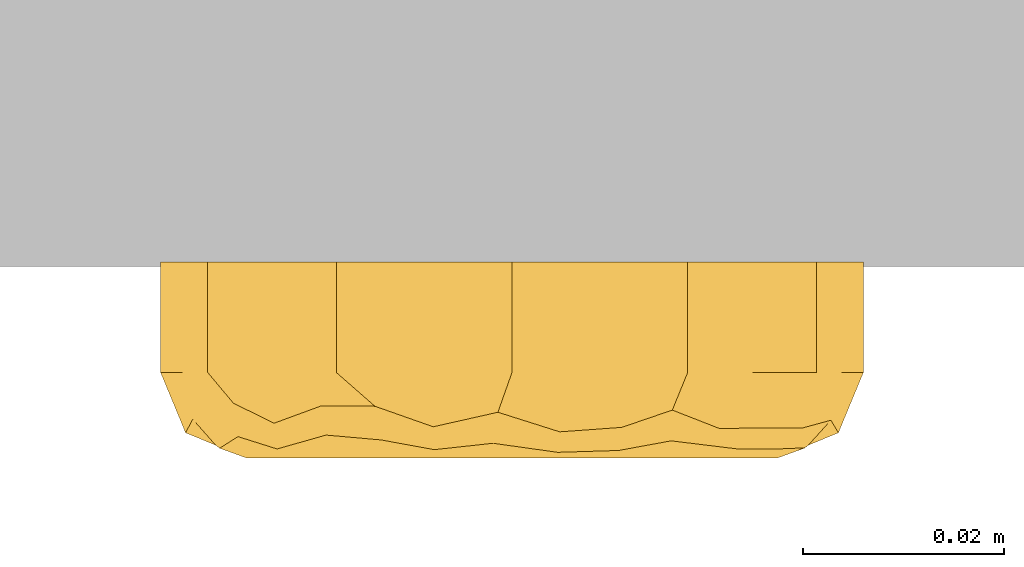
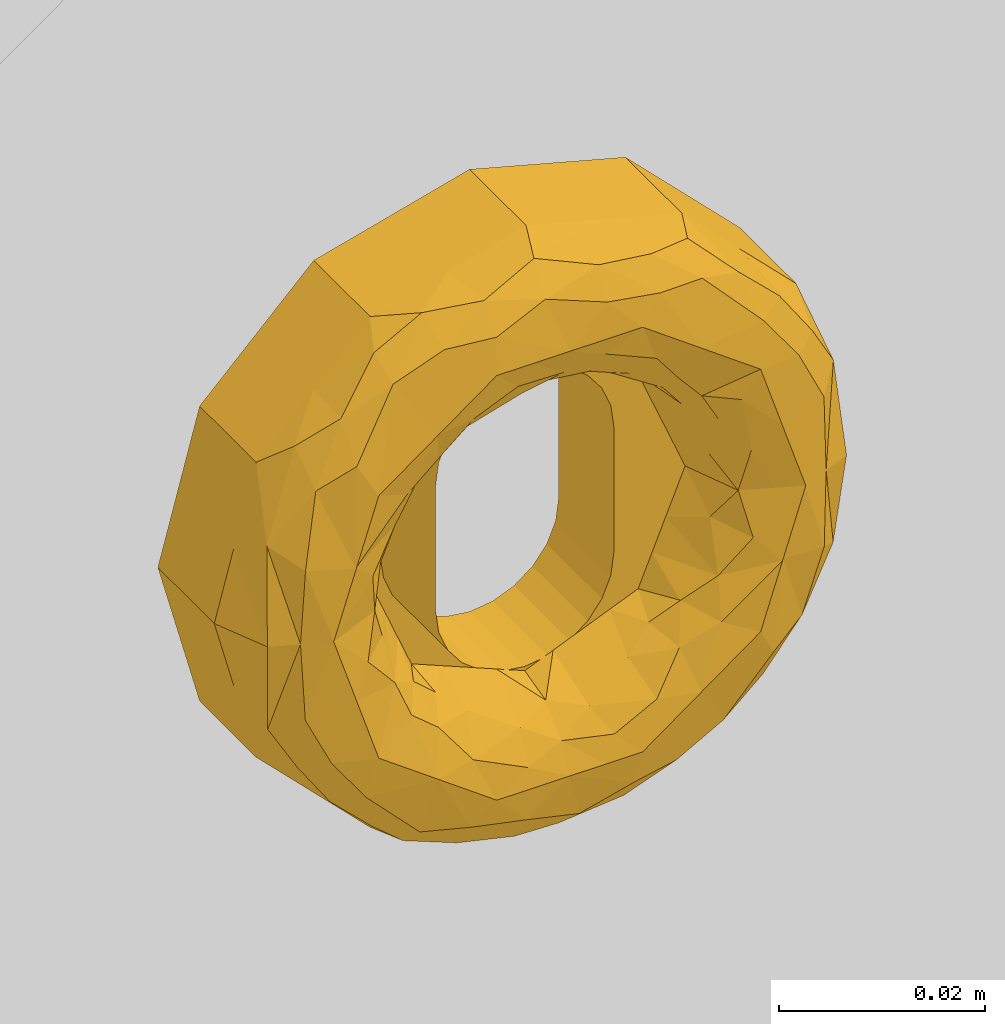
# One storey, part 2 of 2: 1 door.
"""IFC2X3 building model written with IfcOpenShell, lengths in feet."""

from ifc_helpers import new_model, entity, si_unit, converted_unit, derived_unit, direction, frame, origin, place, context, subcontext, project, spatial, face_set, surface_model, source, transform, mapped, type_object, type_shapes, element, save


model = new_model("IFC2X3")

# Units and contexts
model_context = context("Model", 3, precision=0.0001, world=origin(), true_north=direction((6.12303176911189e-17, 1.0)))
body_context = subcontext(model_context, "Body", "Model", "MODEL_VIEW")
ifc_project = project(units=[converted_unit("LENGTHUNIT", "FOOT", entity("IfcRatioMeasure", 0.3048), si_unit("LENGTHUNIT", "METRE"), dimensions=[1, 0, 0, 0, 0, 0, 0]), converted_unit("AREAUNIT", "SQUARE FOOT", entity("IfcRatioMeasure", 0.09290304), si_unit("AREAUNIT", "SQUARE_METRE"), dimensions=[2, 0, 0, 0, 0, 0, 0]), converted_unit("VOLUMEUNIT", "CUBIC FOOT", entity("IfcRatioMeasure", 0.028316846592), si_unit("VOLUMEUNIT", "CUBIC_METRE"), dimensions=[3, 0, 0, 0, 0, 0, 0]), converted_unit("PLANEANGLEUNIT", "DEGREE", entity("IfcRatioMeasure", 0.0174532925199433), si_unit("PLANEANGLEUNIT", "RADIAN"), dimensions=[0, 0, 0, 0, 0, 0, 0]), si_unit("MASSUNIT", "GRAM", prefix="KILO"), derived_unit("MASSDENSITYUNIT", [(si_unit("MASSUNIT", "GRAM", prefix="KILO"), 1), (si_unit("LENGTHUNIT", "METRE"), -3)]), si_unit("TIMEUNIT", "SECOND"), si_unit("FREQUENCYUNIT", "HERTZ"), si_unit("THERMODYNAMICTEMPERATUREUNIT", "DEGREE_CELSIUS"), derived_unit("THERMALTRANSMITTANCEUNIT", [(si_unit("MASSUNIT", "GRAM", prefix="KILO"), 1), (si_unit("THERMODYNAMICTEMPERATUREUNIT", "KELVIN"), -1), (si_unit("TIMEUNIT", "SECOND"), -3)]), derived_unit("VOLUMETRICFLOWRATEUNIT", [(si_unit("LENGTHUNIT", "METRE"), 3), (si_unit("TIMEUNIT", "SECOND"), -1)]), si_unit("ELECTRICCURRENTUNIT", "AMPERE"), si_unit("ELECTRICVOLTAGEUNIT", "VOLT"), si_unit("POWERUNIT", "WATT"), si_unit("FORCEUNIT", "NEWTON"), si_unit("ILLUMINANCEUNIT", "LUX"), si_unit("LUMINOUSFLUXUNIT", "LUMEN"), si_unit("LUMINOUSINTENSITYUNIT", "CANDELA"), derived_unit("USERDEFINED", [(si_unit("MASSUNIT", "GRAM", prefix="KILO"), -1), (si_unit("LENGTHUNIT", "METRE"), -2), (si_unit("TIMEUNIT", "SECOND"), 3), (si_unit("LUMINOUSFLUXUNIT", "LUMEN"), 1)]), derived_unit("LINEARVELOCITYUNIT", [(si_unit("LENGTHUNIT", "METRE"), 1), (si_unit("TIMEUNIT", "SECOND"), -1)]), si_unit("PRESSUREUNIT", "PASCAL"), derived_unit("USERDEFINED", [(si_unit("LENGTHUNIT", "METRE"), -2), (si_unit("MASSUNIT", "GRAM", prefix="KILO"), 1), (si_unit("TIMEUNIT", "SECOND"), -2)])], contexts=[model_context])

# Site, building, storey
site_placement = place(None, origin())
site = spatial("IfcSite", under=ifc_project, at=site_placement, Name="Default", CompositionType="ELEMENT")
building_placement = place(site_placement, origin())
building = spatial("IfcBuilding", under=site, at=building_placement, CompositionType="ELEMENT")
storey_placement = place(building_placement, origin())
storey = spatial("IfcBuildingStorey", under=building, at=storey_placement, Name="Level 1", CompositionType="ELEMENT", Elevation=0.0)

# Door
door_style = type_object("IfcDoorStyle", Name="dline_Hardware_TomDixonCollection_Escutcheons_Oval_Half_SnapOn_10.25", ConstructionType="NOTDEFINED", OperationType="DOUBLE_SWING_RIGHT", ParameterTakesPrecedence=False, Sizeable=False)
shared_shape = source(origin(), body_context, "Body", "SurfaceModel", [
    surface_model("IfcFaceBasedSurfaceModel", [(-0.114829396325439, 0.0, -0.00161922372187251), (-0.0994451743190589, 0.0574146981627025, -0.00161922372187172), (-0.0574146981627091, 0.0994451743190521, -0.00161922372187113), (0.0, 0.114829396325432, -0.00161922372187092), (0.0574146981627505, 0.099445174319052, -0.00161922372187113), (0.0994451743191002, 0.0574146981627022, -0.00161922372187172), (0.11482939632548, 0.0, -0.00161922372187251), (0.0328083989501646, 0.0, -0.00161922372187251), (0.0328083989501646, 0.0246062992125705, -0.00161922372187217), (0.0316904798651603, 0.0330977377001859, -0.00161922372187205), (0.0284129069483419, 0.0410104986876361, -0.00161922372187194), (0.023199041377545, 0.047805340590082, -0.00161922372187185), (0.0164041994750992, 0.0530192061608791, -0.00161922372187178), (0.00849143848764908, 0.0562967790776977, -0.00161922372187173), (0.0, 0.0574146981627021, -0.00161922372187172), (-0.00849143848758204, 0.0562967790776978, -0.00161922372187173), (-0.0164041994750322, 0.0530192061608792, -0.00161922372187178), (-0.023199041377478, 0.0478053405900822, -0.00161922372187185), (-0.028412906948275, 0.0410104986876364, -0.00161922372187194), (-0.0316904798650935, 0.0330977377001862, -0.00161922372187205), (-0.0328083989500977, 0.0246062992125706, -0.00161922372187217), (-0.0328083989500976, 0.0, -0.00161922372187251), (0.0994451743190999, -0.0574146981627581, -0.0016192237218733), (0.0574146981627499, -0.0994451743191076, -0.00161922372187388), (0.0, -0.114829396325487, -0.0016192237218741), (-0.0574146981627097, -0.099445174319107, -0.00161922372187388), (-0.0994451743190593, -0.0574146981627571, -0.0016192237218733), (-0.0328083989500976, -0.0246062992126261, -0.00161922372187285), (-0.0316904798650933, -0.0330977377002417, -0.00161922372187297), (-0.0284129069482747, -0.0410104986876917, -0.00161922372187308), (-0.0231990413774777, -0.0478053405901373, -0.00161922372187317), (-0.016404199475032, -0.0530192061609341, -0.00161922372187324), (-0.00849143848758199, -0.0562967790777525, -0.00161922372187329), (0.0, -0.0574146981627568, -0.0016192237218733), (0.00849143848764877, -0.0562967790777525, -0.00161922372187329), (0.0164041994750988, -0.0530192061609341, -0.00161922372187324), (0.0231990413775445, -0.0478053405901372, -0.00161922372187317), (0.0284129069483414, -0.0410104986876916, -0.00161922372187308), (0.03169047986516, -0.0330977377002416, -0.00161922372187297), (0.0328083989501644, -0.0246062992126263, -0.00161922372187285), (0.103991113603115, 0.0404490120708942, 0.0344488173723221), (0.107137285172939, 0.0287073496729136, -0.0016192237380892), (0.109410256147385, 0.0202245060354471, 0.0344488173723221), (-0.107137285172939, 0.0287073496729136, 0.0344488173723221), (-0.0994451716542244, 0.0574146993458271, 0.0344488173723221), (-0.107137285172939, 0.0287073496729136, -0.0016192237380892), (0.0784299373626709, 0.0784299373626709, 0.0344488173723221), (0.0994451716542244, 0.0574146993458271, 0.0344488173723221), (0.0784299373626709, 0.0784299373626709, -0.0016192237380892), (0.114829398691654, 0.0, 0.0344488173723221), (0.0574146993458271, 0.0994451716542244, 0.0344488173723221), (0.0287073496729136, 0.107137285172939, -0.0016192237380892), (0.0, 0.114829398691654, 0.0344488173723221), (0.0287073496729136, 0.107137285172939, 0.0344488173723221), (-0.0287073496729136, 0.107137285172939, 0.0344488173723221), (-0.0287073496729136, 0.107137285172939, -0.0016192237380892), (-0.0784299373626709, 0.0784299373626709, -0.0016192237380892), (-0.0784299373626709, 0.0784299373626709, 0.0344488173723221), (-0.0574146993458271, 0.0994451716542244, 0.0344488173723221), (-0.114829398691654, 0.0, 0.0344488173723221), (-0.103991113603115, -0.0404490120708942, 0.0344488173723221), (-0.107137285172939, -0.0287073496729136, -0.0016192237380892), (-0.109410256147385, -0.0202245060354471, 0.0344488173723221), (0.107137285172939, -0.0287073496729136, 0.0344488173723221), (0.0994451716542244, -0.0574146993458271, 0.0344488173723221), (0.107137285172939, -0.0287073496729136, -0.0016192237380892), (-0.0784299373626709, -0.0784299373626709, 0.0344488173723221), (-0.0994451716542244, -0.0574146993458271, 0.0344488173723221), (-0.0784299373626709, -0.0784299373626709, -0.0016192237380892), (-0.0574146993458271, -0.0994451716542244, 0.0344488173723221), (-0.0287073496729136, -0.107137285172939, -0.0016192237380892), (0.0, -0.114829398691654, 0.0344488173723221), (-0.0287073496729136, -0.107137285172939, 0.0344488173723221), (0.0287073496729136, -0.107137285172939, 0.0344488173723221), (0.0287073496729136, -0.107137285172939, -0.0016192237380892), (0.0784299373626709, -0.0784299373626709, -0.0016192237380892), (0.0784299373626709, -0.0784299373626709, 0.0344488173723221), (0.0574146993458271, -0.0994451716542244, 0.0344488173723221), (0.104185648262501, 0.0354321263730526, 0.0500666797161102), (0.10769384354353, 0.0266302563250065, 0.0344488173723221), (-0.00460470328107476, 0.111512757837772, 0.0474605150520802), (-0.0257417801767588, 0.105345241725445, 0.0522065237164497), (-0.00619756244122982, 0.102307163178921, 0.0575964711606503), (0.0358880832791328, 0.102162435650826, 0.0524010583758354), (0.0155927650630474, 0.105819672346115, 0.0538624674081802), (0.095525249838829, 0.0295866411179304, 0.0590888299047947), (0.0948657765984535, 0.0518237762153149, 0.0526179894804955), (0.086100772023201, 0.0492820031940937, 0.059494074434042), (-0.0607702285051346, 0.086708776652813, 0.0549158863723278), (-0.0427446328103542, 0.0948088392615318, 0.0565113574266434), (-0.0447977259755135, 0.103246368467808, 0.0455000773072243), (0.106661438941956, 0.0, 0.0541680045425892), (0.0676873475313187, 0.0841498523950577, 0.0527382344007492), (0.0520024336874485, 0.0896197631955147, 0.056803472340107), (0.0733057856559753, 0.0671199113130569, 0.0594025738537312), (0.0703377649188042, 0.051103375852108, 0.0623359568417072), (0.0523817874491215, 0.0989614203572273, 0.0467500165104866), (0.0348720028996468, 0.0918425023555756, 0.0599449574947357), (-0.0623906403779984, 0.093721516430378, 0.0454000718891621), (0.0968018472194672, 0.0, 0.0582519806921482), (0.0486022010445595, 0.0668951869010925, 0.0623359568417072), (-0.104311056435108, 0.0357333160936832, 0.0497423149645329), (-0.0895434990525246, 0.0554412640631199, 0.0554260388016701), (-0.0910296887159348, 0.0668764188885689, 0.0444998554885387), (-0.0253979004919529, 0.0954931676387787, 0.0596833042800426), (-0.0486022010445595, 0.0668951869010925, 0.0623359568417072), (-0.0777445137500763, 0.0769081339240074, 0.0510394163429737), (-0.0767557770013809, 0.0629682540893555, 0.0594584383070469), (-0.0955414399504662, 0.0286489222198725, 0.0592238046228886), (-0.0968018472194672, 0.0, 0.0582519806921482), (-0.10769384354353, 0.0266302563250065, 0.0344488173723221), (-0.106661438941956, 0.0, 0.0541680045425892), (0.0149465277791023, 0.0955802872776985, 0.0605574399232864), (-0.0786400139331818, 0.025551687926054, 0.0623359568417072), (-0.0869422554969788, 0.0, 0.0623359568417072), (0.0869422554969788, 0.0, 0.0623359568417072), (0.0786400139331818, 0.025551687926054, 0.0623359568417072), (0.0827525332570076, 0.069546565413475, 0.0526207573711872), (0.0268666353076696, 0.0826869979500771, 0.0623359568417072), (0.0, 0.0826869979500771, 0.0623359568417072), (-0.0703377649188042, 0.051103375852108, 0.0623359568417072), (-0.0268666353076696, 0.0826869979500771, 0.0623359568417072), (-0.104185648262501, -0.0354321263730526, 0.0500666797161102), (-0.10769384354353, -0.0266302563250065, 0.0344488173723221), (0.0895434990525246, -0.0554412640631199, 0.0554260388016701), (0.0786400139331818, -0.025551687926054, 0.0623359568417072), (0.0767557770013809, -0.0629682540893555, 0.0594584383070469), (0.10769384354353, -0.0266302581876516, 0.0344488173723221), (0.104311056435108, -0.0357333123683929, 0.0497423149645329), (-0.095525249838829, -0.0295866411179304, 0.0590888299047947), (-0.0948657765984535, -0.0518237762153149, 0.0526179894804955), (-0.086100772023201, -0.0492820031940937, 0.059494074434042), (-0.0486022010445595, -0.0668951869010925, 0.0623359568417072), (-0.0703377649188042, -0.051103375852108, 0.0623359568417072), (-0.0733057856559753, -0.0671199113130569, 0.0594025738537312), (-0.0358880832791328, -0.102162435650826, 0.0524010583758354), (-0.0155927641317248, -0.105819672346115, 0.0538624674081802), (-0.0676873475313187, -0.0841498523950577, 0.0527382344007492), (-0.0520024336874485, -0.0896197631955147, 0.056803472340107), (-0.0348720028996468, -0.0918425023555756, 0.0599449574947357), (0.00460470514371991, -0.111512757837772, 0.0474605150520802), (0.0910296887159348, -0.0668764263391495, 0.0444998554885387), (0.0607702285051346, -0.0867087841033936, 0.0549158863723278), (0.0447977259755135, -0.103246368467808, 0.0455000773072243), (0.0623906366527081, -0.093721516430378, 0.0454000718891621), (0.0427446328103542, -0.0948088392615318, 0.0565113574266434), (0.025397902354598, -0.0954931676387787, 0.0596833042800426), (0.0257417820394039, -0.105345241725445, 0.0522065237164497), (0.0777445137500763, -0.0769081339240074, 0.0510394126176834), (0.0955414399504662, -0.0286489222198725, 0.0592238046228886), (0.00619756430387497, -0.102307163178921, 0.0575964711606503), (-0.0149465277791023, -0.0955802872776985, 0.0605574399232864), (0.0486022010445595, -0.0668951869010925, 0.0623359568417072), (-0.0523817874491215, -0.0989614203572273, 0.0467500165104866), (-0.0786400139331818, -0.025551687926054, 0.0623359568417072), (-0.0827525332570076, -0.069546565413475, 0.0526207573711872), (-0.0268666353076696, -0.0826869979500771, 0.0623359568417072), (0.0, -0.0826869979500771, 0.0623359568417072), (0.0703377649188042, -0.051103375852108, 0.0623359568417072), (0.0268666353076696, -0.0826869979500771, 0.0623359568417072), (0.0595088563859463, 0.030643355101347, 0.0538758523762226), (0.0784134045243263, 0.0262491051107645, 0.0623359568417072), (0.0484802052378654, 0.0383875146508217, 0.0465923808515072), (0.044356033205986, 0.052351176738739, 0.0554684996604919), (0.0548929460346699, 0.0432777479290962, 0.0565236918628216), (-0.0606496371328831, 0.0123952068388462, 0.0467265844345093), (-0.0519581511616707, 0.0171627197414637, 0.0336286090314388), (-0.0590671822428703, 0.0, 0.0336286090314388), (0.0724360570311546, 0.0148040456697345, 0.0591158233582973), (0.06114686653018, 0.0148187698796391, 0.0486077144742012), (0.0669351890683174, 0.0, 0.0538758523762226), (0.0590671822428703, 0.0, 0.0336286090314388), (-0.0104417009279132, 0.0547420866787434, 0.0336286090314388), (-0.0208834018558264, 0.0504169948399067, 0.0336286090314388), (-0.0123898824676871, 0.0651603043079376, 0.0532300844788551), (0.0519581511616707, 0.0171627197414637, 0.0336286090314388), (0.0337963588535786, 0.0663290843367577, 0.0593778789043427), (-0.0784134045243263, 0.0262491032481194, 0.0623359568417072), (-0.0578487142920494, 0.0450543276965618, 0.0587845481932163), (0.0468624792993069, 0.0294647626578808, 0.0336286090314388), (-0.0595088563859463, 0.030643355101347, 0.0538758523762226), (-0.0700549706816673, 0.0169776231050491, 0.0580473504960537), (-0.0337963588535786, 0.0663290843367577, 0.0593778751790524), (-0.029567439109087, 0.055287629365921, 0.0482283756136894), (-0.0669351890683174, 0.0, 0.0538758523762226), (-0.044356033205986, 0.052351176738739, 0.0554684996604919), (-0.0487650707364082, 0.039685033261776, 0.0485318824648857), (0.0417668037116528, 0.0417668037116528, 0.0336286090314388), (0.0394373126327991, 0.0467448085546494, 0.0450741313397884), (0.0143742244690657, 0.0754772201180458, 0.0604394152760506), (0.0295674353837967, 0.0552876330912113, 0.0482283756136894), (0.0208834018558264, 0.0504169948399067, 0.0336286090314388), (0.0129081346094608, 0.0648935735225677, 0.0530497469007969), (-0.0313251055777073, 0.0460918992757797, 0.0336286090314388), (-0.0390795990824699, 0.0469961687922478, 0.0449839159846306), (0.000194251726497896, 0.0621994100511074, 0.0473134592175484), (0.000380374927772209, 0.0715737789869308, 0.0577196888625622), (-0.0134333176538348, 0.0826869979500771, 0.0623359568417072), (-0.017739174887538, 0.0738889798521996, 0.0600946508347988), (0.0104417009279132, 0.0547420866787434, 0.0336286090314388), (0.0313251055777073, 0.0460918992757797, 0.0336286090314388), (-0.0417668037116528, 0.0417668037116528, 0.0336286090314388), (-0.0468624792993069, 0.0294647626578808, 0.0336286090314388), (0.0, 0.0590671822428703, 0.0336286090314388), (-0.0784134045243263, -0.0262491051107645, 0.0623359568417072), (-0.0695305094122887, -0.0168505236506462, 0.0576988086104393), (-0.0647844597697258, -0.0398912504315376, 0.0601339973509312), (-0.0295674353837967, -0.0552876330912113, 0.0482283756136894), (-0.0435471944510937, -0.0435946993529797, 0.0461281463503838), (-0.0313251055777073, -0.0460918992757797, 0.0336286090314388), (-0.0208834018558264, -0.0504169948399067, 0.0336286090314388), (-0.0129081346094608, -0.0648935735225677, 0.0530497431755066), (-0.059508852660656, -0.0306433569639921, 0.0538758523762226), (-0.0530390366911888, -0.042167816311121, 0.0546896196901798), (-0.0743755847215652, -0.0386762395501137, 0.0623359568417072), (-0.0417668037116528, -0.0417668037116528, 0.0336286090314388), (-0.0510150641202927, -0.0340855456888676, 0.0455372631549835), (0.0606496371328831, -0.0123952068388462, 0.0467265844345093), (0.0519581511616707, -0.0171627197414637, 0.0336286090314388), (-0.0337963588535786, -0.0663290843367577, 0.0593778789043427), (-0.0443560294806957, -0.0523511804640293, 0.0554684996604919), (0.044356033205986, -0.052351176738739, 0.0554684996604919), (0.0337963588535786, -0.0663290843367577, 0.0593778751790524), (0.0784134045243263, -0.0262491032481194, 0.0623359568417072), (0.0578487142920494, -0.0450543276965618, 0.0587845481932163), (0.0595088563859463, -0.030643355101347, 0.0538758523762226), (0.0700549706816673, -0.0169776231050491, 0.0580473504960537), (-0.060554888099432, -0.0119150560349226, 0.0463369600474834), (0.0123898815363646, -0.0651603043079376, 0.0532300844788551), (0.0295674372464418, -0.055287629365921, 0.0482283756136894), (-0.0776933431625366, 0.0, 0.05842499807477), (0.0487650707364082, -0.039685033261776, 0.0485318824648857), (-0.0143742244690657, -0.0754772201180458, 0.0604394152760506), (-0.000194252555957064, -0.0621994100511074, 0.0473134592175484), (-0.000380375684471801, -0.0715737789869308, 0.0577196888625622), (0.0313251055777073, -0.0460918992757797, 0.0336286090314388), (0.0390795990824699, -0.0469961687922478, 0.0449839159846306), (0.0104417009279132, -0.0547420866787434, 0.0336286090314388), (0.0134333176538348, -0.0826869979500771, 0.0623359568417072), (0.017739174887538, -0.0738889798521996, 0.0600946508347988), (-0.0104417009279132, -0.0547420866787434, 0.0336286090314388), (-0.0519581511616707, -0.0171627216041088, 0.0336286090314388), (-0.0468624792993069, -0.0294647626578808, 0.0336286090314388), (0.0417668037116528, -0.0417668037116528, 0.0336286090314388), (0.0468624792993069, -0.0294647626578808, 0.0336286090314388), (0.0208834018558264, -0.0504169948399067, 0.0336286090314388), (0.0, -0.0590671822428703, 0.0336286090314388), (-0.0328083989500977, 0.0, 0.0336286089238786), (-0.0328083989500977, 0.0246062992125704, 0.0336286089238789), (-0.0316904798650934, 0.0330977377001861, 0.033628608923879), (-0.0284129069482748, 0.0410104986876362, 0.0336286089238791), (-0.0231990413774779, 0.0478053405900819, 0.0336286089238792), (-0.0164041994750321, 0.0530192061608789, 0.0336286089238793), (-0.00849143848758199, 0.0562967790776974, 0.0336286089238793), (0.0, 0.0574146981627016, 0.0336286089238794), (0.008491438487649, 0.0562967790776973, 0.0336286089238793), (0.0164041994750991, 0.0530192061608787, 0.0336286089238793), (0.0231990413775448, 0.0478053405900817, 0.0336286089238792), (0.0284129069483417, 0.0410104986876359, 0.0336286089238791), (0.0316904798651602, 0.0330977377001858, 0.033628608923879), (0.0328083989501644, 0.0246062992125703, 0.0336286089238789), (0.0328083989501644, 0.0, 0.0336286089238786), (0.0328083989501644, -0.0246062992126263, 0.0336286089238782), (0.0316904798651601, -0.0330977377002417, 0.0336286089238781), (0.0284129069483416, -0.0410104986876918, 0.033628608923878), (0.0231990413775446, -0.0478053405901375, 0.0336286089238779), (0.0164041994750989, -0.0530192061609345, 0.0336286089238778), (0.00849143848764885, -0.056296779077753, 0.0336286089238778), (0.0, -0.0574146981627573, 0.0336286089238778), (-0.00849143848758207, -0.056296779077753, 0.0336286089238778), (-0.0164041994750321, -0.0530192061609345, 0.0336286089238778), (-0.0231990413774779, -0.0478053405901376, 0.0336286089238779), (-0.0284129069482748, -0.0410104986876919, 0.033628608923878), (-0.0316904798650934, -0.0330977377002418, 0.0336286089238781), (-0.0328083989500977, -0.0246062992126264, 0.0336286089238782)], [face_set([[[0, 1, 2, 3, 4, 5, 6, 7, 8, 9, 10, 11, 12, 13, 14, 15, 16, 17, 18, 19, 20, 21]], [[6, 22, 23, 24, 25, 26, 0, 21, 27, 28, 29, 30, 31, 32, 33, 34, 35, 36, 37, 38, 39, 7]], [[5, 40, 41]], [[41, 40, 42]], [[43, 44, 1, 45]], [[46, 47, 5, 48]], [[6, 41, 42]], [[42, 49, 6]], [[50, 46, 48, 4]], [[51, 3, 52, 53]], [[5, 47, 40]], [[4, 51, 53, 50]], [[54, 52, 3, 55]], [[56, 1, 44, 57]], [[2, 56, 57, 58]], [[45, 0, 59, 43]], [[55, 2, 58, 54]], [[26, 60, 61]], [[61, 60, 62]], [[63, 64, 22, 65]], [[66, 67, 26, 68]], [[0, 61, 62]], [[62, 59, 0]], [[69, 66, 68, 25]], [[70, 24, 71, 72]], [[26, 67, 60]], [[25, 70, 72, 69]], [[73, 71, 24, 74]], [[75, 22, 64, 76]], [[23, 75, 76, 77]], [[65, 6, 49, 63]], [[74, 23, 77, 73]], [[47, 78, 79]], [[80, 81, 82]], [[83, 53, 84]], [[85, 86, 87]], [[88, 89, 90]], [[78, 91, 79]], [[92, 93, 94]], [[78, 86, 85]], [[87, 94, 95]], [[96, 93, 92]], [[93, 83, 97]], [[80, 54, 81]], [[80, 84, 53]], [[91, 49, 79]], [[90, 98, 88]], [[85, 99, 78]], [[100, 95, 94]], [[101, 102, 103]], [[86, 47, 46]], [[89, 104, 81]], [[104, 89, 105]], [[106, 107, 88]], [[108, 101, 109]], [[50, 92, 46]], [[110, 111, 101]], [[84, 112, 97]], [[102, 113, 107]], [[44, 103, 57]], [[101, 44, 110]], [[110, 59, 111]], [[109, 114, 108]], [[99, 85, 115]], [[99, 91, 78]], [[47, 86, 78]], [[87, 95, 116]], [[116, 115, 85]], [[87, 86, 117]], [[87, 117, 94]], [[85, 87, 116]], [[92, 94, 117]], [[100, 94, 93]], [[92, 117, 46]], [[96, 92, 50]], [[52, 80, 53]], [[83, 93, 96]], [[96, 50, 53]], [[53, 83, 96]], [[97, 100, 93]], [[112, 84, 82]], [[84, 97, 83]], [[100, 97, 118]], [[104, 119, 82]], [[118, 97, 112]], [[119, 118, 112]], [[104, 82, 81]], [[119, 112, 82]], [[84, 80, 82]], [[58, 90, 54]], [[88, 120, 105]], [[119, 104, 121]], [[89, 81, 90]], [[121, 104, 105]], [[105, 89, 88]], [[80, 52, 54]], [[54, 90, 81]], [[90, 58, 98]], [[103, 102, 106]], [[106, 88, 98]], [[98, 58, 57]], [[57, 106, 98]], [[107, 106, 102]], [[57, 103, 106]], [[101, 103, 44]], [[86, 46, 117]], [[88, 107, 120]], [[102, 108, 113]], [[113, 120, 107]], [[101, 111, 109]], [[113, 108, 114]], [[101, 108, 102]], [[67, 122, 123]], [[124, 125, 126]], [[127, 91, 128]], [[129, 130, 131]], [[132, 133, 134]], [[122, 111, 123]], [[135, 72, 136]], [[122, 130, 129]], [[131, 134, 133]], [[137, 138, 134]], [[138, 135, 139]], [[130, 67, 66]], [[140, 136, 72]], [[129, 109, 122]], [[128, 124, 141]], [[111, 59, 123]], [[64, 141, 76]], [[142, 143, 144]], [[69, 137, 66]], [[145, 146, 147]], [[140, 73, 147]], [[148, 126, 142]], [[149, 128, 99]], [[140, 147, 150]], [[142, 145, 143]], [[136, 151, 139]], [[146, 145, 152]], [[153, 138, 137]], [[128, 64, 127]], [[127, 49, 91]], [[99, 115, 149]], [[109, 129, 114]], [[109, 111, 122]], [[67, 130, 122]], [[131, 133, 154]], [[154, 114, 129]], [[131, 130, 155]], [[131, 155, 134]], [[129, 131, 154]], [[137, 134, 155]], [[132, 134, 138]], [[137, 155, 66]], [[153, 137, 69]], [[71, 140, 72]], [[135, 138, 153]], [[153, 69, 72]], [[72, 135, 153]], [[139, 132, 138]], [[151, 136, 150]], [[136, 139, 135]], [[132, 139, 156]], [[146, 157, 150]], [[156, 139, 151]], [[157, 156, 151]], [[146, 150, 147]], [[157, 151, 150]], [[136, 140, 150]], [[77, 143, 73]], [[142, 158, 152]], [[157, 146, 159]], [[145, 147, 143]], [[159, 146, 152]], [[152, 145, 142]], [[140, 71, 73]], [[73, 143, 147]], [[143, 77, 144]], [[141, 124, 148]], [[148, 142, 144]], [[144, 77, 76]], [[76, 148, 144]], [[126, 148, 124]], [[76, 141, 148]], [[128, 141, 64]], [[130, 66, 155]], [[142, 126, 158]], [[124, 149, 125]], [[125, 158, 126]], [[128, 91, 99]], [[125, 149, 115]], [[128, 149, 124]], [[160, 95, 161]], [[162, 163, 164]], [[160, 162, 164]], [[165, 166, 167]], [[160, 168, 169]], [[170, 171, 169]], [[172, 173, 174]], [[175, 160, 169]], [[176, 100, 163]], [[163, 100, 164]], [[120, 177, 178]], [[160, 179, 162]], [[180, 166, 165]], [[181, 180, 165]], [[177, 178, 180]], [[182, 174, 183]], [[181, 184, 114]], [[185, 186, 178]], [[177, 180, 181]], [[115, 161, 168]], [[187, 188, 162]], [[189, 176, 118]], [[185, 105, 182]], [[190, 191, 192]], [[183, 193, 194]], [[163, 190, 176]], [[195, 174, 196]], [[182, 121, 105]], [[195, 172, 174]], [[196, 119, 189]], [[197, 198, 196]], [[176, 100, 118]], [[192, 199, 195]], [[176, 190, 192]], [[188, 200, 190]], [[185, 182, 183]], [[120, 178, 105]], [[198, 174, 182]], [[186, 185, 194]], [[187, 162, 179]], [[160, 175, 179]], [[163, 162, 188]], [[164, 95, 160]], [[95, 164, 100]], [[188, 190, 163]], [[175, 169, 171]], [[191, 190, 200]], [[188, 187, 200]], [[170, 169, 168]], [[170, 168, 115]], [[161, 168, 160]], [[177, 181, 114]], [[184, 181, 165]], [[184, 165, 167]], [[201, 202, 186]], [[202, 166, 180]], [[180, 178, 186]], [[185, 178, 105]], [[180, 186, 202]], [[201, 186, 194]], [[183, 173, 193]], [[194, 185, 183]], [[193, 201, 194]], [[203, 195, 199]], [[192, 191, 199]], [[192, 195, 196]], [[192, 196, 189]], [[197, 119, 196]], [[198, 197, 121]], [[182, 198, 121]], [[174, 198, 196]], [[192, 189, 176]], [[119, 189, 118]], [[183, 174, 173]], [[172, 195, 203]], [[204, 205, 206]], [[207, 208, 209]], [[207, 210, 211]], [[212, 213, 206]], [[214, 133, 206]], [[215, 208, 216]], [[217, 218, 171]], [[206, 204, 214]], [[219, 132, 220]], [[221, 152, 222]], [[158, 223, 224]], [[132, 133, 220]], [[225, 218, 217]], [[226, 225, 217]], [[205, 184, 227]], [[222, 228, 229]], [[204, 114, 230]], [[221, 231, 224]], [[223, 225, 226]], [[227, 184, 167]], [[226, 170, 115]], [[232, 219, 156]], [[233, 234, 211]], [[223, 224, 225]], [[229, 235, 236]], [[220, 207, 219]], [[233, 228, 234]], [[222, 159, 152]], [[233, 237, 228]], [[234, 157, 232]], [[238, 239, 234]], [[219, 132, 156]], [[211, 240, 233]], [[219, 207, 211]], [[208, 215, 209]], [[221, 222, 229]], [[158, 224, 152]], [[239, 228, 222]], [[231, 221, 236]], [[209, 210, 207]], [[230, 205, 204]], [[205, 230, 184]], [[241, 212, 227]], [[205, 227, 212]], [[241, 227, 167]], [[205, 212, 206]], [[133, 213, 220]], [[213, 133, 206]], [[213, 208, 220]], [[212, 216, 213]], [[220, 208, 207]], [[241, 216, 212]], [[242, 215, 216]], [[213, 216, 208]], [[242, 216, 241]], [[223, 226, 115]], [[170, 226, 217]], [[170, 217, 171]], [[243, 244, 231]], [[244, 218, 225]], [[225, 224, 231]], [[221, 224, 152]], [[225, 231, 244]], [[243, 231, 236]], [[229, 245, 235]], [[236, 221, 229]], [[235, 243, 236]], [[237, 245, 228]], [[211, 210, 240]], [[246, 233, 240]], [[211, 234, 232]], [[238, 157, 234]], [[239, 238, 159]], [[222, 239, 159]], [[228, 239, 234]], [[211, 232, 219]], [[157, 232, 156]], [[229, 228, 245]], [[237, 233, 246]], [[171, 187, 203, 201, 167, 247, 248, 249, 250, 251, 252, 253, 254, 255, 256, 257, 258, 259, 260, 261]], [[167, 215, 246, 243, 171, 261, 262, 263, 264, 265, 266, 267, 268, 269, 270, 271, 272, 273, 274, 247]], [[260, 261, 262, 39, 7, 8]], [[39, 262, 263, 38]], [[38, 263, 264, 37]], [[36, 265, 266, 35]], [[37, 264, 265, 36]], [[35, 266, 267, 34]], [[268, 33, 34, 267]], [[33, 268, 269, 32]], [[32, 269, 270, 31]], [[30, 271, 272, 29]], [[31, 270, 271, 30]], [[29, 272, 273, 28]], [[274, 27, 28, 273]], [[274, 247, 248, 20, 21, 27]], [[20, 248, 249, 19]], [[19, 249, 250, 18]], [[17, 251, 252, 16]], [[18, 250, 251, 17]], [[16, 252, 253, 15]], [[254, 14, 15, 253]], [[14, 254, 255, 13]], [[13, 255, 256, 12]], [[11, 257, 258, 10]], [[12, 256, 257, 11]], [[10, 258, 259, 9]], [[260, 8, 9, 259]]])]),
])
type_shapes(door_style, [shared_shape])
door_placement = place(storey_placement, frame((-1.15724821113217, 6.19537031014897, 3.52795512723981), z_axis=(0.0, -1.0, 0.0), x_axis=(-1.0, 0.0, 0.0)))
element("IfcDoor", 1, at=door_placement, inside=storey, type_object=door_style, Name="12.9002.02.130:dline_Hardware_TomDixonCollection_Escutcheons_Oval_Half_SnapOn_10.25", ObjectType="12.9002.02.130:dline_Hardware_TomDixonCollection_Escutcheons_Oval_Half_SnapOn_10.25", OverallHeight=0.425667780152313, OverallWidth=0.442913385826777, context=body_context, shape_type="MappedRepresentation", body=[
    mapped(shared_shape, transform((0.0, 0.0, 0.0), scale=1.0)),
])

save(model, "model.ifc")
